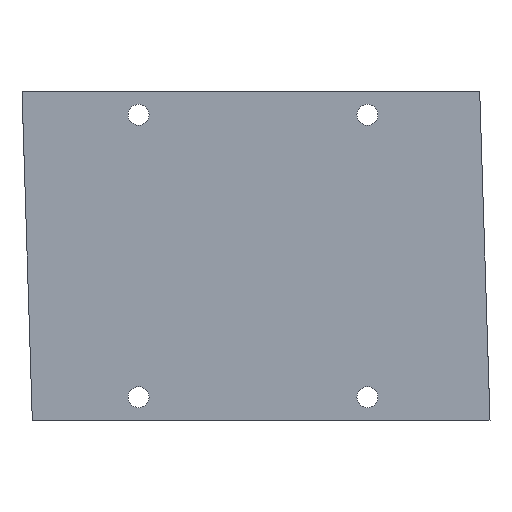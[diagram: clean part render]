
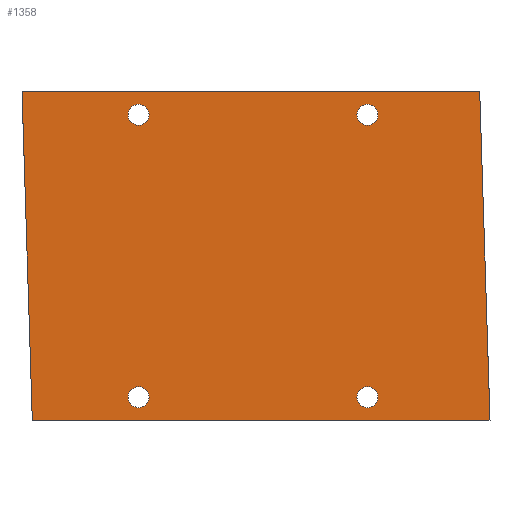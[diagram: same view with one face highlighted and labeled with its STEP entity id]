
A CAD part, front view. The second image highlights one B-rep face of the part: STEP entity #1358.
In plain terms, the highlighted planar face has unit normal (0, -1, 0).
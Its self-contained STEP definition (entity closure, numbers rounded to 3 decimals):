
#18 = EDGE_CURVE ( 'NONE', #705, #1626, #1560, .T. ) ;
#43 = LINE ( 'NONE', #714, #1414 ) ;
#51 = CARTESIAN_POINT ( 'NONE',  ( 0., 0., 0. ) ) ;
#70 = EDGE_LOOP ( 'NONE', ( #2243, #2044 ) ) ;
#91 = CARTESIAN_POINT ( 'NONE',  ( -30.78, 0., 37. ) ) ;
#101 = CIRCLE ( 'NONE', #712, 2.75 ) ;
#102 = EDGE_LOOP ( 'NONE', ( #1551, #1177, #1436, #980 ) ) ;
#130 = EDGE_LOOP ( 'NONE', ( #433, #1047 ) ) ;
#138 = EDGE_CURVE ( 'NONE', #2151, #1955, #286, .T. ) ;
#145 = VECTOR ( 'NONE', #1051, 1000. ) ;
#165 = AXIS2_PLACEMENT_3D ( 'NONE', #962, #2144, #1276 ) ;
#192 = EDGE_LOOP ( 'NONE', ( #415, #1229 ) ) ;
#223 = AXIS2_PLACEMENT_3D ( 'NONE', #1247, #907, #2111 ) ;
#259 = VERTEX_POINT ( 'NONE', #1948 ) ;
#286 = CIRCLE ( 'NONE', #397, 2.75 ) ;
#297 = DIRECTION ( 'NONE',  ( 0., 0., -1. ) ) ;
#325 = CARTESIAN_POINT ( 'NONE',  ( -30.78, 0., -37. ) ) ;
#326 = CARTESIAN_POINT ( 'NONE',  ( 29.22, 0., -34.25 ) ) ;
#342 = AXIS2_PLACEMENT_3D ( 'NONE', #51, #1825, #923 ) ;
#394 = EDGE_CURVE ( 'NONE', #1955, #2151, #101, .T. ) ;
#397 = AXIS2_PLACEMENT_3D ( 'NONE', #436, #2203, #297 ) ;
#415 = ORIENTED_EDGE ( 'NONE', *, *, #1402, .F. ) ;
#433 = ORIENTED_EDGE ( 'NONE', *, *, #394, .F. ) ;
#436 = CARTESIAN_POINT ( 'NONE',  ( 29.22, 0., 37. ) ) ;
#472 = VERTEX_POINT ( 'NONE', #1158 ) ;
#485 = CARTESIAN_POINT ( 'NONE',  ( 58.65, 0., 43. ) ) ;
#614 = VERTEX_POINT ( 'NONE', #2199 ) ;
#628 = CARTESIAN_POINT ( 'NONE',  ( 29.22, 0., 34.25 ) ) ;
#688 = FACE_BOUND ( 'NONE', #70, .T. ) ;
#705 = VERTEX_POINT ( 'NONE', #1211 ) ;
#712 = AXIS2_PLACEMENT_3D ( 'NONE', #1852, #969, #1693 ) ;
#714 = CARTESIAN_POINT ( 'NONE',  ( -58.65, 0., -43. ) ) ;
#723 = ORIENTED_EDGE ( 'NONE', *, *, #761, .F. ) ;
#729 = LINE ( 'NONE', #1588, #979 ) ;
#760 = EDGE_CURVE ( 'NONE', #259, #1219, #2089, .T. ) ;
#761 = EDGE_CURVE ( 'NONE', #1219, #259, #2247, .T. ) ;
#777 = DIRECTION ( 'NONE',  ( 0., 0., -1. ) ) ;
#778 = CIRCLE ( 'NONE', #1416, 2.75 ) ;
#789 = FACE_BOUND ( 'NONE', #1979, .T. ) ;
#840 = CIRCLE ( 'NONE', #1890, 2.75 ) ;
#907 = DIRECTION ( 'NONE',  ( 0., -1., 0. ) ) ;
#923 = DIRECTION ( 'NONE',  ( 0., 0., -1. ) ) ;
#962 = CARTESIAN_POINT ( 'NONE',  ( -30.78, 0., 37. ) ) ;
#969 = DIRECTION ( 'NONE',  ( 0., -1., 0. ) ) ;
#979 = VECTOR ( 'NONE', #1573, 1000. ) ;
#980 = ORIENTED_EDGE ( 'NONE', *, *, #1592, .F. ) ;
#1018 = CARTESIAN_POINT ( 'NONE',  ( -30.78, 0., -34.25 ) ) ;
#1047 = ORIENTED_EDGE ( 'NONE', *, *, #138, .F. ) ;
#1051 = DIRECTION ( 'NONE',  ( -0.031, 0., 1. ) ) ;
#1061 = CARTESIAN_POINT ( 'NONE',  ( 58.65, 0., 43. ) ) ;
#1129 = EDGE_CURVE ( 'NONE', #1458, #1244, #2202, .T. ) ;
#1133 = EDGE_CURVE ( 'NONE', #614, #472, #1786, .T. ) ;
#1158 = CARTESIAN_POINT ( 'NONE',  ( -61.35, 0., 43. ) ) ;
#1163 = ORIENTED_EDGE ( 'NONE', *, *, #760, .F. ) ;
#1177 = ORIENTED_EDGE ( 'NONE', *, *, #1552, .F. ) ;
#1211 = CARTESIAN_POINT ( 'NONE',  ( -30.78, 0., 34.25 ) ) ;
#1215 = FACE_BOUND ( 'NONE', #192, .T. ) ;
#1219 = VERTEX_POINT ( 'NONE', #326 ) ;
#1227 = DIRECTION ( 'NONE',  ( 0., -1., 0. ) ) ;
#1229 = ORIENTED_EDGE ( 'NONE', *, *, #1946, .F. ) ;
#1238 = FACE_BOUND ( 'NONE', #130, .T. ) ;
#1244 = VERTEX_POINT ( 'NONE', #1421 ) ;
#1247 = CARTESIAN_POINT ( 'NONE',  ( 29.22, 0., -37. ) ) ;
#1276 = DIRECTION ( 'NONE',  ( 0., 0., -1. ) ) ;
#1358 = ADVANCED_FACE ( 'NONE', ( #789, #1238, #1215, #688, #1669 ), #1469, .T. ) ;
#1388 = CIRCLE ( 'NONE', #165, 2.75 ) ;
#1402 = EDGE_CURVE ( 'NONE', #2014, #1623, #778, .T. ) ;
#1414 = VECTOR ( 'NONE', #1565, 1000. ) ;
#1416 = AXIS2_PLACEMENT_3D ( 'NONE', #1904, #1896, #1519 ) ;
#1421 = CARTESIAN_POINT ( 'NONE',  ( 61.35, 0., -43. ) ) ;
#1436 = ORIENTED_EDGE ( 'NONE', *, *, #1133, .F. ) ;
#1458 = VERTEX_POINT ( 'NONE', #485 ) ;
#1469 = PLANE ( 'NONE',  #342 ) ;
#1519 = DIRECTION ( 'NONE',  ( 0., 0., -1. ) ) ;
#1551 = ORIENTED_EDGE ( 'NONE', *, *, #1129, .F. ) ;
#1552 = EDGE_CURVE ( 'NONE', #472, #1458, #729, .T. ) ;
#1556 = CARTESIAN_POINT ( 'NONE',  ( -61.35, 0., 43. ) ) ;
#1560 = CIRCLE ( 'NONE', #2093, 2.75 ) ;
#1565 = DIRECTION ( 'NONE',  ( -1., 0., 0. ) ) ;
#1573 = DIRECTION ( 'NONE',  ( 1., 0., 0. ) ) ;
#1577 = DIRECTION ( 'NONE',  ( 0., 0., -1. ) ) ;
#1588 = CARTESIAN_POINT ( 'NONE',  ( -61.35, 0., 43. ) ) ;
#1592 = EDGE_CURVE ( 'NONE', #1244, #614, #43, .T. ) ;
#1613 = CARTESIAN_POINT ( 'NONE',  ( -30.78, 0., 39.75 ) ) ;
#1618 = DIRECTION ( 'NONE',  ( 0., 0., -1. ) ) ;
#1623 = VERTEX_POINT ( 'NONE', #2245 ) ;
#1626 = VERTEX_POINT ( 'NONE', #1613 ) ;
#1650 = DIRECTION ( 'NONE',  ( 0., -1., 0. ) ) ;
#1669 = FACE_OUTER_BOUND ( 'NONE', #102, .T. ) ;
#1693 = DIRECTION ( 'NONE',  ( 0., 0., -1. ) ) ;
#1710 = CARTESIAN_POINT ( 'NONE',  ( 29.22, 0., 39.75 ) ) ;
#1751 = DIRECTION ( 'NONE',  ( 0., -1., 0. ) ) ;
#1784 = EDGE_CURVE ( 'NONE', #1626, #705, #1388, .T. ) ;
#1785 = CARTESIAN_POINT ( 'NONE',  ( 29.22, 0., -37. ) ) ;
#1786 = LINE ( 'NONE', #1556, #145 ) ;
#1825 = DIRECTION ( 'NONE',  ( 0., -1., 0. ) ) ;
#1837 = VECTOR ( 'NONE', #2080, 1000. ) ;
#1852 = CARTESIAN_POINT ( 'NONE',  ( 29.22, 0., 37. ) ) ;
#1890 = AXIS2_PLACEMENT_3D ( 'NONE', #325, #1751, #1618 ) ;
#1896 = DIRECTION ( 'NONE',  ( 0., -1., 0. ) ) ;
#1904 = CARTESIAN_POINT ( 'NONE',  ( -30.78, 0., -37. ) ) ;
#1946 = EDGE_CURVE ( 'NONE', #1623, #2014, #840, .T. ) ;
#1948 = CARTESIAN_POINT ( 'NONE',  ( 29.22, 0., -39.75 ) ) ;
#1955 = VERTEX_POINT ( 'NONE', #1710 ) ;
#1979 = EDGE_LOOP ( 'NONE', ( #723, #1163 ) ) ;
#2014 = VERTEX_POINT ( 'NONE', #1018 ) ;
#2044 = ORIENTED_EDGE ( 'NONE', *, *, #18, .F. ) ;
#2080 = DIRECTION ( 'NONE',  ( 0.031, 0., -1. ) ) ;
#2089 = CIRCLE ( 'NONE', #223, 2.75 ) ;
#2093 = AXIS2_PLACEMENT_3D ( 'NONE', #91, #1650, #777 ) ;
#2111 = DIRECTION ( 'NONE',  ( 0., 0., -1. ) ) ;
#2144 = DIRECTION ( 'NONE',  ( 0., -1., 0. ) ) ;
#2151 = VERTEX_POINT ( 'NONE', #628 ) ;
#2199 = CARTESIAN_POINT ( 'NONE',  ( -58.65, 0., -43. ) ) ;
#2202 = LINE ( 'NONE', #1061, #1837 ) ;
#2203 = DIRECTION ( 'NONE',  ( 0., -1., 0. ) ) ;
#2243 = ORIENTED_EDGE ( 'NONE', *, *, #1784, .F. ) ;
#2245 = CARTESIAN_POINT ( 'NONE',  ( -30.78, 0., -39.75 ) ) ;
#2247 = CIRCLE ( 'NONE', #2252, 2.75 ) ;
#2252 = AXIS2_PLACEMENT_3D ( 'NONE', #1785, #1227, #1577 ) ;
